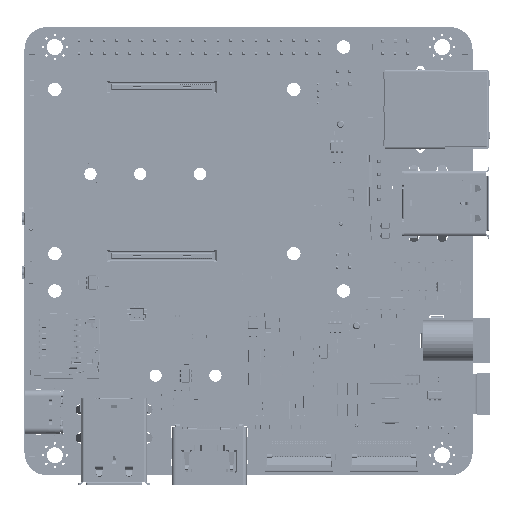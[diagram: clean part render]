
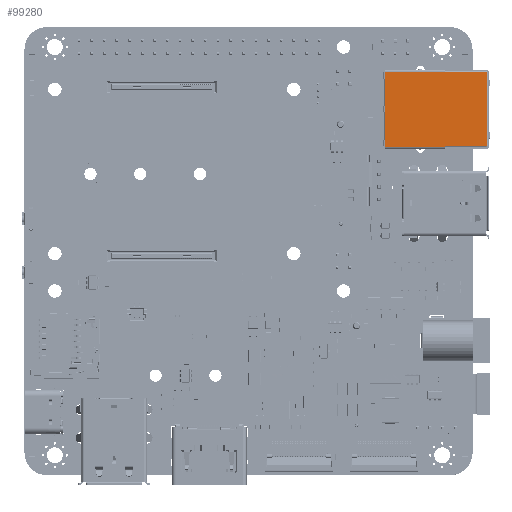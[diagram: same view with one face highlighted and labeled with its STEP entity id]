
A CAD part, top view. The second image highlights one B-rep face of the part: STEP entity #99280.
In plain terms, the highlighted planar face has unit normal (0, 0, 1) as drawn and (0, 1, 0) by its records, which use the part's own axes.
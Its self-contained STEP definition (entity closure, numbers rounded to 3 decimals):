
#97216 = VERTEX_POINT('',#97217);
#97217 = CARTESIAN_POINT('',(0.65,13.65,-10.225));
#97223 = EDGE_CURVE('',#97224,#97216,#97226,.T.);
#97224 = VERTEX_POINT('',#97225);
#97225 = CARTESIAN_POINT('',(0.65,13.65,-10.125));
#97226 = LINE('',#97227,#97228);
#97227 = CARTESIAN_POINT('',(0.65,13.65,-10.125));
#97228 = VECTOR('',#97229,1.);
#97229 = DIRECTION('',(0.,0.,-1.));
#97325 = EDGE_CURVE('',#97326,#97328,#97330,.T.);
#97326 = VERTEX_POINT('',#97327);
#97327 = CARTESIAN_POINT('',(6.15,13.65,-10.125));
#97328 = VERTEX_POINT('',#97329);
#97329 = CARTESIAN_POINT('',(6.15,13.65,-10.225));
#97330 = LINE('',#97331,#97332);
#97331 = CARTESIAN_POINT('',(6.15,13.65,-10.125));
#97332 = VECTOR('',#97333,1.);
#97333 = DIRECTION('',(0.,0.,-1.));
#97405 = EDGE_CURVE('',#97406,#97408,#97410,.T.);
#97406 = VERTEX_POINT('',#97407);
#97407 = CARTESIAN_POINT('',(-0.65,13.65,-10.125));
#97408 = VERTEX_POINT('',#97409);
#97409 = CARTESIAN_POINT('',(-0.65,13.65,-10.225));
#97410 = LINE('',#97411,#97412);
#97411 = CARTESIAN_POINT('',(-0.65,13.65,-10.125));
#97412 = VECTOR('',#97413,1.);
#97413 = DIRECTION('',(0.,0.,-1.));
#97456 = VERTEX_POINT('',#97457);
#97457 = CARTESIAN_POINT('',(-6.15,13.65,-10.225));
#97463 = EDGE_CURVE('',#97464,#97456,#97466,.T.);
#97464 = VERTEX_POINT('',#97465);
#97465 = CARTESIAN_POINT('',(-6.15,13.65,-10.125));
#97466 = LINE('',#97467,#97468);
#97467 = CARTESIAN_POINT('',(-6.15,13.65,-10.125));
#97468 = VECTOR('',#97469,1.);
#97469 = DIRECTION('',(0.,0.,-1.));
#97532 = EDGE_CURVE('',#97533,#97328,#97535,.T.);
#97533 = VERTEX_POINT('',#97534);
#97534 = CARTESIAN_POINT('',(7.4,13.65,-10.225));
#97535 = LINE('',#97536,#97537);
#97536 = CARTESIAN_POINT('',(0.,13.65,-10.225));
#97537 = VECTOR('',#97538,1.);
#97538 = DIRECTION('',(-1.,0.,0.));
#97579 = VERTEX_POINT('',#97580);
#97580 = CARTESIAN_POINT('',(-7.4,13.65,-10.225));
#97587 = EDGE_CURVE('',#97456,#97579,#97588,.T.);
#97588 = LINE('',#97589,#97590);
#97589 = CARTESIAN_POINT('',(0.,13.65,-10.225));
#97590 = VECTOR('',#97591,1.);
#97591 = DIRECTION('',(-1.,0.,0.));
#98003 = VERTEX_POINT('',#98004);
#98004 = CARTESIAN_POINT('',(7.4,13.65,1.775));
#98010 = EDGE_CURVE('',#98011,#98003,#98013,.T.);
#98011 = VERTEX_POINT('',#98012);
#98012 = CARTESIAN_POINT('',(7.4,13.65,10.225));
#98013 = LINE('',#98014,#98015);
#98014 = CARTESIAN_POINT('',(7.4,13.65,0.));
#98015 = VECTOR('',#98016,1.);
#98016 = DIRECTION('',(0.,0.,-1.));
#98041 = VERTEX_POINT('',#98042);
#98042 = CARTESIAN_POINT('',(-7.4,13.65,-10.125));
#98048 = EDGE_CURVE('',#97579,#98041,#98049,.T.);
#98049 = LINE('',#98050,#98051);
#98050 = CARTESIAN_POINT('',(-7.4,13.65,0.));
#98051 = VECTOR('',#98052,1.);
#98052 = DIRECTION('',(0.,0.,1.));
#99129 = VERTEX_POINT('',#99130);
#99130 = CARTESIAN_POINT('',(-7.4,13.65,10.225));
#99185 = EDGE_CURVE('',#98011,#99129,#99186,.T.);
#99186 = LINE('',#99187,#99188);
#99187 = CARTESIAN_POINT('',(-7.4,13.65,10.225));
#99188 = VECTOR('',#99189,1.);
#99189 = DIRECTION('',(-1.,0.,0.));
#99217 = EDGE_CURVE('',#99218,#99129,#99220,.T.);
#99218 = VERTEX_POINT('',#99219);
#99219 = CARTESIAN_POINT('',(-7.4,13.65,1.775));
#99220 = LINE('',#99221,#99222);
#99221 = CARTESIAN_POINT('',(-7.4,13.65,0.));
#99222 = VECTOR('',#99223,1.);
#99223 = DIRECTION('',(0.,0.,1.));
#99248 = EDGE_CURVE('',#99249,#97533,#99251,.T.);
#99249 = VERTEX_POINT('',#99250);
#99250 = CARTESIAN_POINT('',(7.4,13.65,-10.125));
#99251 = LINE('',#99252,#99253);
#99252 = CARTESIAN_POINT('',(7.4,13.65,0.));
#99253 = VECTOR('',#99254,1.);
#99254 = DIRECTION('',(0.,0.,-1.));
#99280 = ADVANCED_FACE('',(#99281),#99356,.F.);
#99281 = FACE_BOUND('',#99282,.T.);
#99282 = EDGE_LOOP('',(#99283,#99284,#99285,#99291,#99292,#99298,#99299,
    #99305,#99306,#99307,#99308,#99316,#99324,#99330,#99331,#99332,
    #99333,#99341,#99349,#99355));
#99283 = ORIENTED_EDGE('',*,*,#97532,.T.);
#99284 = ORIENTED_EDGE('',*,*,#97325,.F.);
#99285 = ORIENTED_EDGE('',*,*,#99286,.F.);
#99286 = EDGE_CURVE('',#97224,#97326,#99287,.T.);
#99287 = LINE('',#99288,#99289);
#99288 = CARTESIAN_POINT('',(6.15,13.65,-10.125));
#99289 = VECTOR('',#99290,1.);
#99290 = DIRECTION('',(1.,-0.,-0.));
#99291 = ORIENTED_EDGE('',*,*,#97223,.T.);
#99292 = ORIENTED_EDGE('',*,*,#99293,.T.);
#99293 = EDGE_CURVE('',#97216,#97408,#99294,.T.);
#99294 = LINE('',#99295,#99296);
#99295 = CARTESIAN_POINT('',(0.,13.65,-10.225));
#99296 = VECTOR('',#99297,1.);
#99297 = DIRECTION('',(-1.,0.,0.));
#99298 = ORIENTED_EDGE('',*,*,#97405,.F.);
#99299 = ORIENTED_EDGE('',*,*,#99300,.F.);
#99300 = EDGE_CURVE('',#97464,#97406,#99301,.T.);
#99301 = LINE('',#99302,#99303);
#99302 = CARTESIAN_POINT('',(-6.15,13.65,-10.125));
#99303 = VECTOR('',#99304,1.);
#99304 = DIRECTION('',(1.,0.,0.));
#99305 = ORIENTED_EDGE('',*,*,#97463,.T.);
#99306 = ORIENTED_EDGE('',*,*,#97587,.T.);
#99307 = ORIENTED_EDGE('',*,*,#98048,.T.);
#99308 = ORIENTED_EDGE('',*,*,#99309,.T.);
#99309 = EDGE_CURVE('',#98041,#99310,#99312,.T.);
#99310 = VERTEX_POINT('',#99311);
#99311 = CARTESIAN_POINT('',(-7.5,13.65,-10.125));
#99312 = LINE('',#99313,#99314);
#99313 = CARTESIAN_POINT('',(-7.4,13.65,-10.125));
#99314 = VECTOR('',#99315,1.);
#99315 = DIRECTION('',(-1.,0.,0.));
#99316 = ORIENTED_EDGE('',*,*,#99317,.T.);
#99317 = EDGE_CURVE('',#99310,#99318,#99320,.T.);
#99318 = VERTEX_POINT('',#99319);
#99319 = CARTESIAN_POINT('',(-7.5,13.65,1.775));
#99320 = LINE('',#99321,#99322);
#99321 = CARTESIAN_POINT('',(-7.5,13.65,-10.125));
#99322 = VECTOR('',#99323,1.);
#99323 = DIRECTION('',(0.,0.,1.));
#99324 = ORIENTED_EDGE('',*,*,#99325,.T.);
#99325 = EDGE_CURVE('',#99318,#99218,#99326,.T.);
#99326 = LINE('',#99327,#99328);
#99327 = CARTESIAN_POINT('',(-7.4,13.65,1.775));
#99328 = VECTOR('',#99329,1.);
#99329 = DIRECTION('',(1.,-0.,0.));
#99330 = ORIENTED_EDGE('',*,*,#99217,.T.);
#99331 = ORIENTED_EDGE('',*,*,#99185,.F.);
#99332 = ORIENTED_EDGE('',*,*,#98010,.T.);
#99333 = ORIENTED_EDGE('',*,*,#99334,.T.);
#99334 = EDGE_CURVE('',#98003,#99335,#99337,.T.);
#99335 = VERTEX_POINT('',#99336);
#99336 = CARTESIAN_POINT('',(7.5,13.65,1.775));
#99337 = LINE('',#99338,#99339);
#99338 = CARTESIAN_POINT('',(7.4,13.65,1.775));
#99339 = VECTOR('',#99340,1.);
#99340 = DIRECTION('',(1.,0.,0.));
#99341 = ORIENTED_EDGE('',*,*,#99342,.T.);
#99342 = EDGE_CURVE('',#99335,#99343,#99345,.T.);
#99343 = VERTEX_POINT('',#99344);
#99344 = CARTESIAN_POINT('',(7.5,13.65,-10.125));
#99345 = LINE('',#99346,#99347);
#99346 = CARTESIAN_POINT('',(7.5,13.65,-10.125));
#99347 = VECTOR('',#99348,1.);
#99348 = DIRECTION('',(0.,0.,-1.));
#99349 = ORIENTED_EDGE('',*,*,#99350,.T.);
#99350 = EDGE_CURVE('',#99343,#99249,#99351,.T.);
#99351 = LINE('',#99352,#99353);
#99352 = CARTESIAN_POINT('',(7.4,13.65,-10.125));
#99353 = VECTOR('',#99354,1.);
#99354 = DIRECTION('',(-1.,-0.,-0.));
#99355 = ORIENTED_EDGE('',*,*,#99248,.T.);
#99356 = PLANE('',#99357);
#99357 = AXIS2_PLACEMENT_3D('',#99358,#99359,#99360);
#99358 = CARTESIAN_POINT('',(0.,13.65,
    0.));
#99359 = DIRECTION('',(0.,-1.,0.));
#99360 = DIRECTION('',(0.,0.,-1.));
